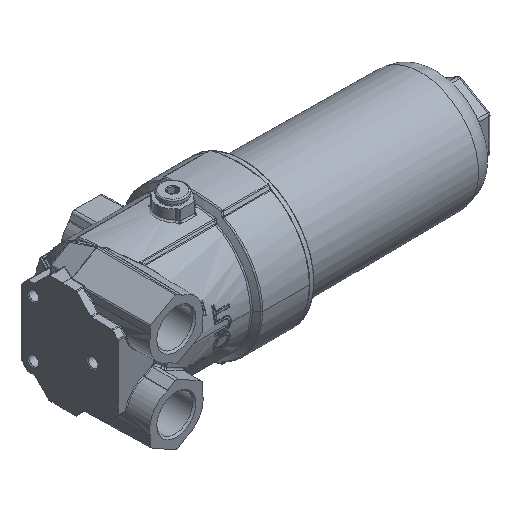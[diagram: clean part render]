
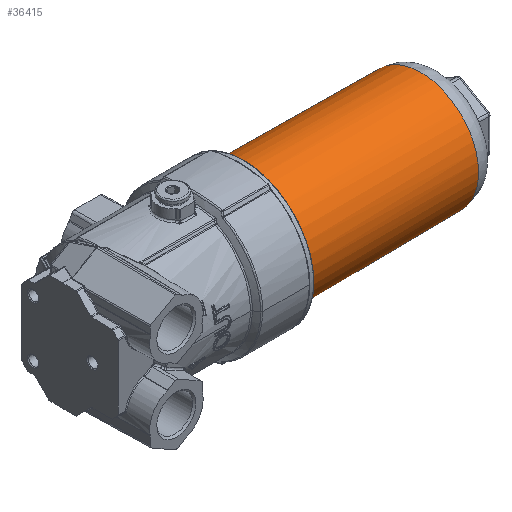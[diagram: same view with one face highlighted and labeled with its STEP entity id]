
A CAD part, isometric view. The second image highlights one B-rep face of the part: STEP entity #36415.
In plain terms, the highlighted free-form (B-spline) face has degree [2, 1] with [7, 2] control points.
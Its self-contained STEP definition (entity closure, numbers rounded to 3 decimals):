
#36328=CARTESIAN_POINT('V1690',(148.641,0.,
   38.956));
#36329=VERTEX_POINT('V1690',#36328);
#36345=CARTESIAN_POINT('E3131',(148.641,0.,
   38.956));
#36346=CARTESIAN_POINT('E3131',(148.641,
   67.474,38.956));
#36347=CARTESIAN_POINT('E3131',(148.641,
   33.737,-19.478));
#36348=CARTESIAN_POINT('E3131',(148.641,0.,
   -77.912));
#36349=CARTESIAN_POINT('E3131',(148.641,
   -33.737,-19.478));
#36350=CARTESIAN_POINT('E3131',(148.641,
   -67.474,38.956));
#36351=CARTESIAN_POINT('E3131',(148.641,0.,
   38.956));
#36359=(BOUNDED_CURVE()B_SPLINE_CURVE(2,(#36345,#36346,#36347,
   #36348,#36349,#36350,#36351),.CIRCULAR_ARC.,.T.,.U.)
   B_SPLINE_CURVE_WITH_KNOTS((3,2,2,3),(0.0,1.162,
   2.324,3.486),.UNSPECIFIED.)CURVE()
   GEOMETRIC_REPRESENTATION_ITEM()RATIONAL_B_SPLINE_CURVE((1.0,
   0.5,1.0,0.5,1.0,0.5,1.0)
   )REPRESENTATION_ITEM('E3131'));
#36360=EDGE_CURVE('E3131',#36329,#36329,#36359,.T.);
#36365=CARTESIAN_POINT('F1329',(148.641,0.,
   38.956));
#36366=CARTESIAN_POINT('F1329',(148.641,
   67.474,38.956));
#36367=CARTESIAN_POINT('F1329',(148.641,
   33.737,-19.478));
#36368=CARTESIAN_POINT('F1329',(148.641,0.,
   -77.912));
#36369=CARTESIAN_POINT('F1329',(148.641,
   -33.737,-19.478));
#36370=CARTESIAN_POINT('F1329',(148.641,
   -67.474,38.956));
#36371=CARTESIAN_POINT('F1329',(148.641,0.,
   38.956));
#36372=CARTESIAN_POINT('F1329',(30.983,0.,
   39.983));
#36373=CARTESIAN_POINT('F1329',(30.983,
   69.252,39.983));
#36374=CARTESIAN_POINT('F1329',(30.983,
   34.626,-19.991));
#36375=CARTESIAN_POINT('F1329',(30.983,0.,
   -79.965));
#36376=CARTESIAN_POINT('F1329',(30.983,
   -34.626,-19.991));
#36377=CARTESIAN_POINT('F1329',(30.983,
   -69.252,39.983));
#36378=CARTESIAN_POINT('F1329',(30.983,0.,
   39.983));
#36386=(BOUNDED_SURFACE()B_SPLINE_SURFACE(2,1,((#36365,#36372),(
   #36366,#36373),(#36367,#36374),(#36368,#36375),(#36369,
   #36376),(#36370,#36377),(#36371,#36378)),.CONICAL_SURF.,.T.,
   .F.,.U.)B_SPLINE_SURFACE_WITH_KNOTS((3,2,2,3),(2,2),(0.0,
   1.162,2.324,3.486),(0.0,1.0),
   .UNSPECIFIED.)GEOMETRIC_REPRESENTATION_ITEM()
   RATIONAL_B_SPLINE_SURFACE(((1.0,1.0),(0.5,
   0.5),(1.0,1.0),(0.5,
   0.5),(1.0,1.0),(0.5,
   0.5),(1.0,1.0)))REPRESENTATION_ITEM('F1329')
   SURFACE());
#36387=CARTESIAN_POINT('V1689',(30.983,0.,
   39.983));
#36388=VERTEX_POINT('V1689',#36387);
#36389=CARTESIAN_POINT('E3130',(30.983,0.,
   39.983));
#36390=CARTESIAN_POINT('E3130',(148.641,0.,
   38.956));
#36391=QUASI_UNIFORM_CURVE('E3130',1,(#36389,#36390),.POLYLINE_FORM.,
   .F.,.U.);
#36392=EDGE_CURVE('E3130',#36388,#36329,#36391,.T.);
#36393=ORIENTED_EDGE('E3130',*,*,#36392,.T.);
#36394=ORIENTED_EDGE('F1330',*,*,#36360,.T.);
#36395=ORIENTED_EDGE('E3130',*,*,#36392,.F.);
#36396=CARTESIAN_POINT('E3129',(30.983,0.,
   39.983));
#36397=CARTESIAN_POINT('E3129',(30.983,
   -69.252,39.983));
#36398=CARTESIAN_POINT('E3129',(30.983,
   -34.626,-19.991));
#36399=CARTESIAN_POINT('E3129',(30.983,0.,
   -79.965));
#36400=CARTESIAN_POINT('E3129',(30.983,
   34.626,-19.991));
#36401=CARTESIAN_POINT('E3129',(30.983,
   69.252,39.983));
#36402=CARTESIAN_POINT('E3129',(30.983,0.,
   39.983));
#36410=(BOUNDED_CURVE()B_SPLINE_CURVE(2,(#36396,#36397,#36398,
   #36399,#36400,#36401,#36402),.CIRCULAR_ARC.,.T.,.U.)
   B_SPLINE_CURVE_WITH_KNOTS((3,2,2,3),(0.0,35.447,
   70.893,106.34),.UNSPECIFIED.)CURVE()
   GEOMETRIC_REPRESENTATION_ITEM()RATIONAL_B_SPLINE_CURVE((1.0,
   0.5,1.0,0.5,1.0,0.5,1.0)
   )REPRESENTATION_ITEM('E3129'));
#36411=EDGE_CURVE('E3129',#36388,#36388,#36410,.T.);
#36412=ORIENTED_EDGE('E3129',*,*,#36411,.T.);
#36413=EDGE_LOOP('F1329',(#36393,#36394,#36395,#36412));
#36414=FACE_OUTER_BOUND('F1329',#36413,.T.);
#36415=ADVANCED_FACE('F1329',(#36414),#36386,.T.);
